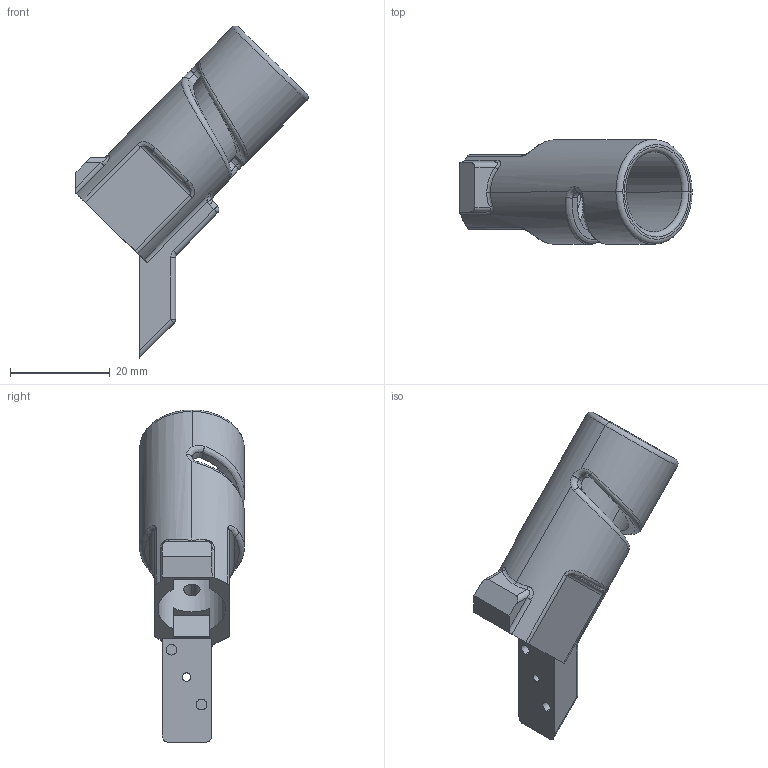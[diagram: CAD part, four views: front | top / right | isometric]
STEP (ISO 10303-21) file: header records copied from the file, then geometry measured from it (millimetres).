
FILE_DESCRIPTION (( 'STEP AP214' ), '1' );
FILE_NAME ('Telescope bodyA Jan10.STEP', '2017-01-10T13:42:08', ( '' ), ( '' ), 'SwSTEP 2.0', 'SolidWorks 2016', '' );
FILE_SCHEMA (( 'AUTOMOTIVE_DESIGN' ));
Length unit declared in the file: millimetre
Products named in the file (1): Telescope bodyA Jan10
Bounding box: 46.57 x 21 x 66.55 mm (x, y, z)
Volume: 8054.6 mm3; surface area: 6533.5 mm2
Topology: 1 solids, 1 shells, 129 faces, 320 edges, 192 vertices
Faces by surface type: cylinder 46, plane 43, bspline 24, torus 10, sphere 4, cone 2
Entity records: 5247 total; most frequent: CARTESIAN_POINT 2349, ORIENTED_EDGE 628, DIRECTION 562, EDGE_CURVE 314, AXIS2_PLACEMENT_3D 213, VERTEX_POINT 192, EDGE_LOOP 140, LINE 136
